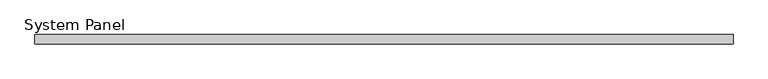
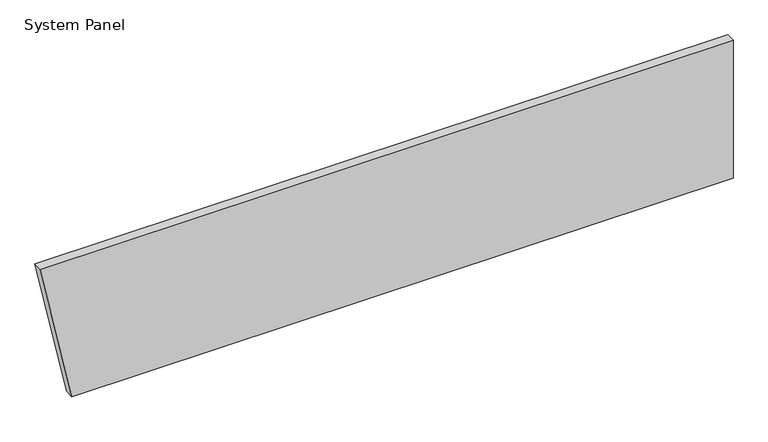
"""IFC4 building model written with IfcOpenShell, lengths in millimetres: plate geometry, System Panel : Equitilt 75mm Horizontal - Plain RHEA - MW."""

from ifc_helpers import new_model, si_unit, frame, origin, place, context, project, spatial, polyline, outline, extrude, source, transform, mapped, element, save


def system_panel_4a560e26(model_context):
    return source(origin(), model_context, "Body", "SweptSolid", [
        extrude(outline(polyline([(0.0, -2590.0), (0.0, 2850.8716619), (1200.0, 2850.8716619), (1200.0, -2850.8716619), (0.0, -2590.0)])), frame((0.0, -75.0, 0.0), z_axis=(0.0, 1.0, 0.0), x_axis=(0.0, 0.0, 1.0)), (0.0, 0.0, 1.0), 75.0),
    ])


if __name__ == "__main__":
    model = new_model("IFC4")
    model_context = context("Model", 3, world=origin())
    ifc_project = project(units=[si_unit("LENGTHUNIT", "METRE", prefix="MILLI")], contexts=[model_context])
    site = spatial("IfcSite", under=ifc_project)
    building = spatial("IfcBuilding", under=site)
    placement = place(None, origin())
    system_panel_shape = system_panel_4a560e26(model_context)
    element("IfcPlate", 1, ObjectType="System Panel : Equitilt 75mm Horizontal - Plain RHEA - MW", at=placement, inside=building, context=model_context, shape_type="MappedRepresentation", body=[
        mapped(system_panel_shape, transform((0.0, 0.0, 0.0), x_axis=(1.0, 0.0, 0.0), y_axis=(0.0, 1.0, 0.0), z_axis=(0.0, 0.0, 1.0))),
    ])
    save(model, "model.ifc")
